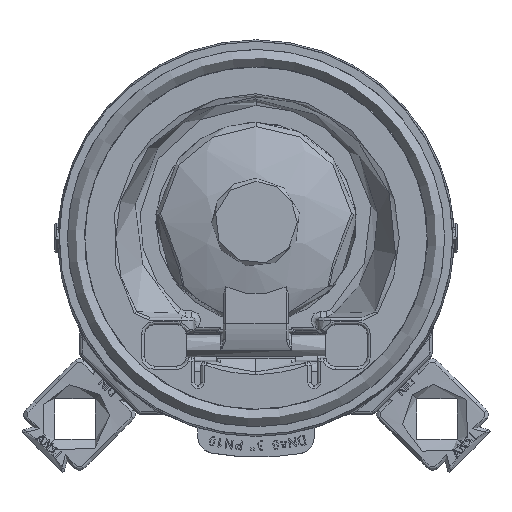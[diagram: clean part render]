
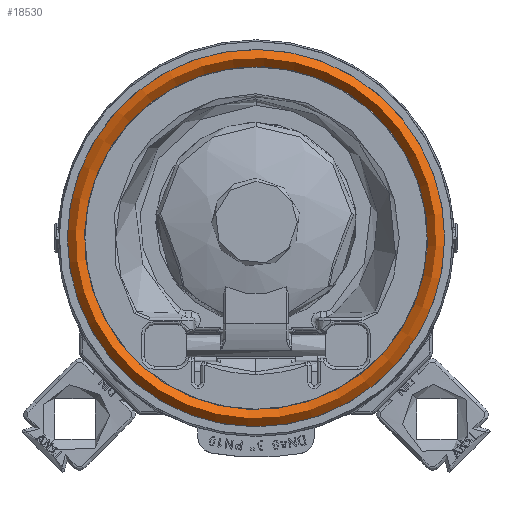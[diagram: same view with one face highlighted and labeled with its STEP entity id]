
A CAD part, top view. The second image highlights one B-rep face of the part: STEP entity #18530.
In plain terms, the highlighted toroidal (fillet/blend) face has major radius 56.325 mm and minor radius 2.665 mm.
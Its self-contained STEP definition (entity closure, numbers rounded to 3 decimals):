
#424=TOROIDAL_SURFACE('',#19971,56.325,2.665);
#1378=CIRCLE('',#19972,2.665);
#1379=CIRCLE('',#19973,58.99);
#2599=FACE_OUTER_BOUND('',#3686,.T.);
#3686=EDGE_LOOP('',(#16065,#16067,#16066,#16068));
#8148=VERTEX_POINT('',#72188);
#10787=EDGE_CURVE('',#8148,#8148,#1378,.T.);
#10788=EDGE_CURVE('',#8148,#8148,#1379,.T.);
#16065=ORIENTED_EDGE('',*,*,#10787,.T.);
#16066=ORIENTED_EDGE('',*,*,#10787,.F.);
#16067=ORIENTED_EDGE('',*,*,#10788,.T.);
#16068=ORIENTED_EDGE('',*,*,#10788,.F.);
#18530=ADVANCED_FACE('',(#2599),#424,.T.);
#19971=AXIS2_PLACEMENT_3D('',#72185,#23822,#23823);
#19972=AXIS2_PLACEMENT_3D('',#72186,#23824,#23825);
#19973=AXIS2_PLACEMENT_3D('',#72187,#23826,#23827);
#23822=DIRECTION('center_axis',(0.,1.,0.));
#23823=DIRECTION('ref_axis',(0.,0.,1.));
#23824=DIRECTION('center_axis',(-1.,0.,0.));
#23825=DIRECTION('ref_axis',(0.,0.,1.));
#23826=DIRECTION('center_axis',(0.,-1.,0.));
#23827=DIRECTION('ref_axis',(0.,0.,1.));
#72185=CARTESIAN_POINT('Origin',(0.,0.,0.));
#72186=CARTESIAN_POINT('Origin',(0.,0.,56.325));
#72187=CARTESIAN_POINT('Origin',(0.,0.,0.));
#72188=CARTESIAN_POINT('',(0.,0.,58.99));
